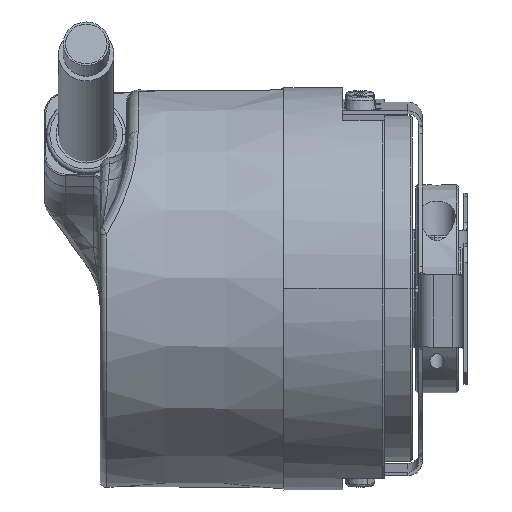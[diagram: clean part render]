
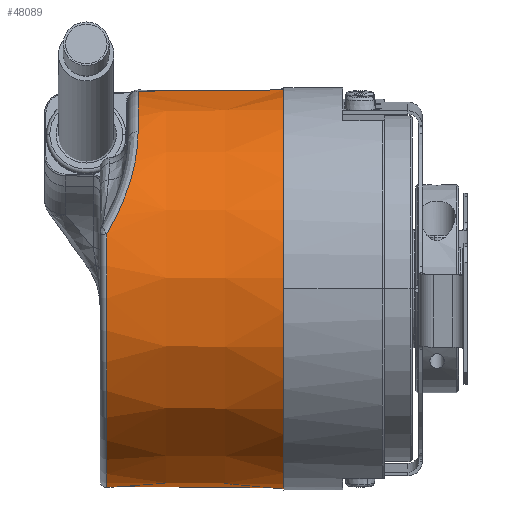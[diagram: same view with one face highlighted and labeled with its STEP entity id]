
A CAD part, top view. The second image highlights one B-rep face of the part: STEP entity #48089.
In plain terms, the highlighted conical face has half-angle 0.5 degrees and reference radius 29 mm.
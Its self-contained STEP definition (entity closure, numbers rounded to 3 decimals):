
#1904 = DIRECTION ( 'NONE',  ( 1., 0., 0. ) ) ;
#2118 = CARTESIAN_POINT ( 'NONE',  ( -16.255, 11.218, 26.419 ) ) ;
#2610 = ORIENTED_EDGE ( 'NONE', *, *, #22055, .T. ) ;
#3488 = DIRECTION ( 'NONE',  ( 1., 0.009, 0.001 ) ) ;
#3828 = DIRECTION ( 'NONE',  ( 1., -0.009, -0.001 ) ) ;
#4441 = VECTOR ( 'NONE', #3488, 1000. ) ;
#5509 = VERTEX_POINT ( 'NONE', #10864 ) ;
#5964 = AXIS2_PLACEMENT_3D ( 'NONE', #29194, #63601, #34111 ) ;
#7061 = CARTESIAN_POINT ( 'NONE',  ( -17.253, 9.211, 27.174 ) ) ;
#7201 = FACE_OUTER_BOUND ( 'NONE', #8299, .T. ) ;
#8235 = CARTESIAN_POINT ( 'NONE',  ( 19., 28.792, 3.468 ) ) ;
#8299 = EDGE_LOOP ( 'NONE', ( #36817, #31901, #30809, #2610, #12982, #19780 ) ) ;
#8989 = EDGE_CURVE ( 'NONE', #36619, #14215, #43504, .T. ) ;
#10864 = CARTESIAN_POINT ( 'NONE',  ( -13.513, 28.51, 3.434 ) ) ;
#11181 = CARTESIAN_POINT ( 'NONE',  ( -18.009, 7.885, 27.572 ) ) ;
#11301 = AXIS2_PLACEMENT_3D ( 'NONE', #49882, #20363, #54808 ) ;
#12040 = CARTESIAN_POINT ( 'NONE',  ( -18.009, 7.885, 27.572 ) ) ;
#12982 = ORIENTED_EDGE ( 'NONE', *, *, #28854, .T. ) ;
#14215 = VERTEX_POINT ( 'NONE', #11181 ) ;
#15834 = DIRECTION ( 'NONE',  ( 0., -0.993, -0.12 ) ) ;
#16529 = CARTESIAN_POINT ( 'NONE',  ( -13.513, 21.643, 18.939 ) ) ;
#16741 = CARTESIAN_POINT ( 'NONE',  ( -13.846, 18.851, 21.662 ) ) ;
#17522 = LINE ( 'NONE', #8235, #4441 ) ;
#19780 = ORIENTED_EDGE ( 'NONE', *, *, #20288, .F. ) ;
#20288 = EDGE_CURVE ( 'NONE', #57769, #37686, #63371, .T. ) ;
#20363 = DIRECTION ( 'NONE',  ( 1., 0., 0. ) ) ;
#21664 = CIRCLE ( 'NONE', #5964, 28.716 ) ;
#21678 = CARTESIAN_POINT ( 'NONE',  ( -14.016, 17.951, 22.412 ) ) ;
#22055 = EDGE_CURVE ( 'NONE', #14215, #25787, #55595, .T. ) ;
#22250 = EDGE_CURVE ( 'NONE', #5509, #36619, #21664, .T. ) ;
#22978 = CARTESIAN_POINT ( 'NONE',  ( 7.5, 28.692, 3.456 ) ) ;
#23687 = AXIS2_PLACEMENT_3D ( 'NONE', #31365, #1904, #36298 ) ;
#24064 = VECTOR ( 'NONE', #3828, 1000. ) ;
#24071 = CARTESIAN_POINT ( 'NONE',  ( 7.5, -28.692, -3.456 ) ) ;
#25229 = EDGE_CURVE ( 'NONE', #5509, #57769, #17522, .T. ) ;
#25787 = VERTEX_POINT ( 'NONE', #48361 ) ;
#26639 = CARTESIAN_POINT ( 'NONE',  ( -14.374, 16.412, 23.567 ) ) ;
#28854 = EDGE_CURVE ( 'NONE', #25787, #37686, #38705, .T. ) ;
#29194 = CARTESIAN_POINT ( 'NONE',  ( -13.513, 0., 0. ) ) ;
#30809 = ORIENTED_EDGE ( 'NONE', *, *, #8989, .T. ) ;
#31365 = CARTESIAN_POINT ( 'NONE',  ( -18.009, 0., 0. ) ) ;
#31574 = CARTESIAN_POINT ( 'NONE',  ( -15.389, 13.214, 25.519 ) ) ;
#31901 = ORIENTED_EDGE ( 'NONE', *, *, #22250, .T. ) ;
#34111 = DIRECTION ( 'NONE',  ( 0., -0.993, -0.12 ) ) ;
#35379 = CARTESIAN_POINT ( 'NONE',  ( 19., 0., 0. ) ) ;
#36292 = CARTESIAN_POINT ( 'NONE',  ( -13.587, 20.58, 20.087 ) ) ;
#36298 = DIRECTION ( 'NONE',  ( 0., 0.993, 0.12 ) ) ;
#36505 = CARTESIAN_POINT ( 'NONE',  ( -16.572, 10.545, 26.691 ) ) ;
#36619 = VERTEX_POINT ( 'NONE', #37123 ) ;
#36817 = ORIENTED_EDGE ( 'NONE', *, *, #25229, .F. ) ;
#37123 = CARTESIAN_POINT ( 'NONE',  ( -13.513, 22.616, 17.695 ) ) ;
#37686 = VERTEX_POINT ( 'NONE', #24071 ) ;
#38705 = LINE ( 'NONE', #43224, #24064 ) ;
#40376 = DIRECTION ( 'NONE',  ( 1., 0., 0. ) ) ;
#41311 = CARTESIAN_POINT ( 'NONE',  ( -13.513, 22.616, 17.695 ) ) ;
#41529 = CARTESIAN_POINT ( 'NONE',  ( -17.619, 8.546, 27.386 ) ) ;
#43224 = CARTESIAN_POINT ( 'NONE',  ( 19., -28.792, -3.468 ) ) ;
#43504 = B_SPLINE_CURVE_WITH_KNOTS ( 'NONE', 3,
 ( #41311, #16529, #36292, #46255, #16741, #51223, #21678, #56137, #26639, #61053, #31574, #2118, #36505, #7061, #41529, #12040 ),
 .UNSPECIFIED., .F., .F.,
 ( 4, 2, 2, 2, 2, 2, 2, 4 ),
 ( 0., 0.005, 0.006, 0.007, 0.009, 0.014, 0.016, 0.019 ),
 .UNSPECIFIED. ) ;
#46255 = CARTESIAN_POINT ( 'NONE',  ( -13.798, 19.144, 21.405 ) ) ;
#47568 = AXIS2_PLACEMENT_3D ( 'NONE', #35379, #40376, #15834 ) ;
#48089 = ADVANCED_FACE ( 'NONE', ( #7201 ), #54909, .T. ) ;
#48361 = CARTESIAN_POINT ( 'NONE',  ( -18.009, -28.471, -3.43 ) ) ;
#49882 = CARTESIAN_POINT ( 'NONE',  ( 7.5, 0., 0. ) ) ;
#51223 = CARTESIAN_POINT ( 'NONE',  ( -13.955, 18.255, 22.166 ) ) ;
#54808 = DIRECTION ( 'NONE',  ( 0., -0.993, -0.12 ) ) ;
#54909 = CONICAL_SURFACE ( 'NONE', #47568, 29., 0.009 ) ;
#55595 = CIRCLE ( 'NONE', #23687, 28.677 ) ;
#56137 = CARTESIAN_POINT ( 'NONE',  ( -14.216, 17.034, 23.124 ) ) ;
#57769 = VERTEX_POINT ( 'NONE', #22978 ) ;
#61053 = CARTESIAN_POINT ( 'NONE',  ( -14.923, 14.516, 24.809 ) ) ;
#63371 = CIRCLE ( 'NONE', #11301, 28.9 ) ;
#63601 = DIRECTION ( 'NONE',  ( 1., 0., 0. ) ) ;
